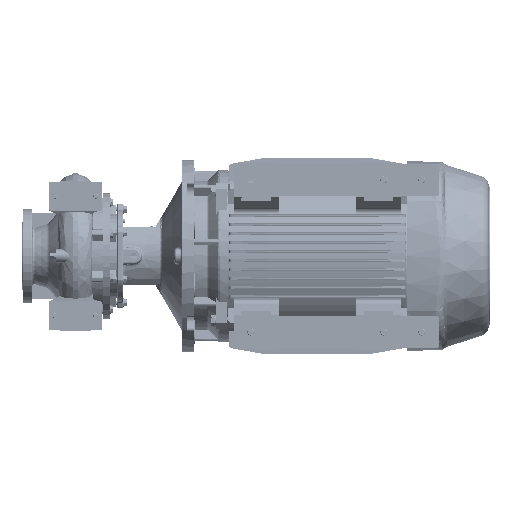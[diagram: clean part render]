
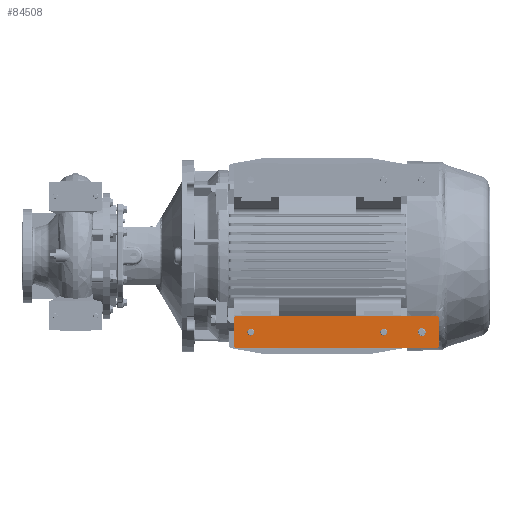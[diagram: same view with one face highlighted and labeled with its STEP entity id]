
A CAD part, front view. The second image highlights one B-rep face of the part: STEP entity #84508.
In plain terms, the highlighted planar face has unit normal (0, -1, 0).
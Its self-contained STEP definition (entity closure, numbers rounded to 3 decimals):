
#1063 = CARTESIAN_POINT ( 'NONE',  ( 69., 0., -480. ) ) ;
#2004 = VERTEX_POINT ( 'NONE', #57544 ) ;
#4925 = LINE ( 'NONE', #144819, #108889 ) ;
#5072 = EDGE_CURVE ( 'NONE', #16788, #2004, #21631, .T. ) ;
#5447 = AXIS2_PLACEMENT_3D ( 'NONE', #47737, #46957, #94392 ) ;
#5503 = ORIENTED_EDGE ( 'NONE', *, *, #133798, .T. ) ;
#6308 = DIRECTION ( 'NONE',  ( 0., 0., -1. ) ) ;
#6821 = FACE_BOUND ( 'NONE', #71823, .T. ) ;
#9548 = VERTEX_POINT ( 'NONE', #71194 ) ;
#9899 = ORIENTED_EDGE ( 'NONE', *, *, #68596, .T. ) ;
#10675 = CARTESIAN_POINT ( 'NONE',  ( 69., 0., -474. ) ) ;
#11479 = CARTESIAN_POINT ( 'NONE',  ( 6., 0., -474. ) ) ;
#12460 = VERTEX_POINT ( 'NONE', #46586 ) ;
#13723 = CARTESIAN_POINT ( 'NONE',  ( 37.5, 0., -431. ) ) ;
#14797 = EDGE_CURVE ( 'NONE', #9548, #12460, #137958, .T. ) ;
#16788 = VERTEX_POINT ( 'NONE', #13723 ) ;
#17043 = DIRECTION ( 'NONE',  ( 0., 1., 0. ) ) ;
#17610 = EDGE_CURVE ( 'NONE', #106049, #43980, #4925, .T. ) ;
#17897 = EDGE_CURVE ( 'NONE', #36921, #129110, #150339, .T. ) ;
#19405 = CARTESIAN_POINT ( 'NONE',  ( 69., 0., 0. ) ) ;
#19759 = DIRECTION ( 'NONE',  ( 0., -1., 0. ) ) ;
#20993 = AXIS2_PLACEMENT_3D ( 'NONE', #61743, #131309, #51013 ) ;
#21631 = CIRCLE ( 'NONE', #36285, 9. ) ;
#23252 = DIRECTION ( 'NONE',  ( 0., 0., 1. ) ) ;
#24013 = CARTESIAN_POINT ( 'NONE',  ( 6., 0., -480. ) ) ;
#25311 = ORIENTED_EDGE ( 'NONE', *, *, #14797, .F. ) ;
#28053 = DIRECTION ( 'NONE',  ( 0., 0., -1. ) ) ;
#28494 = DIRECTION ( 'NONE',  ( 0., 0., -1. ) ) ;
#29213 = CARTESIAN_POINT ( 'NONE',  ( 37.5, 0., -351. ) ) ;
#29222 = VECTOR ( 'NONE', #88631, 1000. ) ;
#32266 = ORIENTED_EDGE ( 'NONE', *, *, #40863, .T. ) ;
#33058 = DIRECTION ( 'NONE',  ( 1., 0., 0. ) ) ;
#34198 = AXIS2_PLACEMENT_3D ( 'NONE', #133768, #19759, #66435 ) ;
#36285 = AXIS2_PLACEMENT_3D ( 'NONE', #121082, #17043, #28494 ) ;
#36921 = VERTEX_POINT ( 'NONE', #98133 ) ;
#38409 = ORIENTED_EDGE ( 'NONE', *, *, #49564, .T. ) ;
#38831 = VECTOR ( 'NONE', #33058, 1000. ) ;
#40863 = EDGE_CURVE ( 'NONE', #2004, #16788, #102537, .T. ) ;
#42702 = VERTEX_POINT ( 'NONE', #113031 ) ;
#42923 = DIRECTION ( 'NONE',  ( 0., 0., -1. ) ) ;
#42933 = EDGE_CURVE ( 'NONE', #42702, #12460, #123251, .T. ) ;
#43152 = CIRCLE ( 'NONE', #84899, 6. ) ;
#43980 = VERTEX_POINT ( 'NONE', #140541 ) ;
#45044 = AXIS2_PLACEMENT_3D ( 'NONE', #76230, #52538, #28053 ) ;
#46586 = CARTESIAN_POINT ( 'NONE',  ( 0., 0., -6. ) ) ;
#46957 = DIRECTION ( 'NONE',  ( 0., -1., 0. ) ) ;
#47737 = CARTESIAN_POINT ( 'NONE',  ( 69., 0., -6. ) ) ;
#49564 = EDGE_CURVE ( 'NONE', #82122, #83153, #49746, .T. ) ;
#49746 = CIRCLE ( 'NONE', #57082, 8. ) ;
#51013 = DIRECTION ( 'NONE',  ( 0., 0., -1. ) ) ;
#52194 = DIRECTION ( 'NONE',  ( 0., 1., 0. ) ) ;
#52538 = DIRECTION ( 'NONE',  ( 0., -1., 0. ) ) ;
#54750 = CARTESIAN_POINT ( 'NONE',  ( 75., 0., -474. ) ) ;
#55304 = CIRCLE ( 'NONE', #126126, 8. ) ;
#55836 = AXIS2_PLACEMENT_3D ( 'NONE', #138483, #80385, #42923 ) ;
#57082 = AXIS2_PLACEMENT_3D ( 'NONE', #148522, #103407, #77464 ) ;
#57408 = DIRECTION ( 'NONE',  ( 0., 0., -1. ) ) ;
#57544 = CARTESIAN_POINT ( 'NONE',  ( 37.5, 0., -449. ) ) ;
#58852 = DIRECTION ( 'NONE',  ( 0., -1., 0. ) ) ;
#61743 = CARTESIAN_POINT ( 'NONE',  ( 37.5, 0., -40. ) ) ;
#63969 = EDGE_LOOP ( 'NONE', ( #83313, #134978, #25311, #143233, #9899, #5503, #79650, #146601 ) ) ;
#64205 = PLANE ( 'NONE',  #34198 ) ;
#66435 = DIRECTION ( 'NONE',  ( 0., 0., -1. ) ) ;
#68596 = EDGE_CURVE ( 'NONE', #139873, #107500, #124132, .T. ) ;
#69261 = EDGE_CURVE ( 'NONE', #42702, #74683, #87148, .T. ) ;
#69964 = CARTESIAN_POINT ( 'NONE',  ( 37.5, 0., -343. ) ) ;
#71194 = CARTESIAN_POINT ( 'NONE',  ( 0., 0., -474. ) ) ;
#71823 = EDGE_LOOP ( 'NONE', ( #124000, #32266 ) ) ;
#74683 = VERTEX_POINT ( 'NONE', #19405 ) ;
#74924 = FACE_BOUND ( 'NONE', #103531, .T. ) ;
#75374 = CARTESIAN_POINT ( 'NONE',  ( 37.5, 0., -32. ) ) ;
#76003 = DIRECTION ( 'NONE',  ( 0., 0., 1. ) ) ;
#76230 = CARTESIAN_POINT ( 'NONE',  ( 6., 0., -6. ) ) ;
#77464 = DIRECTION ( 'NONE',  ( 0., 0., -1. ) ) ;
#79314 = ORIENTED_EDGE ( 'NONE', *, *, #127856, .T. ) ;
#79650 = ORIENTED_EDGE ( 'NONE', *, *, #17610, .T. ) ;
#80385 = DIRECTION ( 'NONE',  ( 0., 1., 0. ) ) ;
#82122 = VERTEX_POINT ( 'NONE', #147835 ) ;
#83153 = VERTEX_POINT ( 'NONE', #69964 ) ;
#83289 = AXIS2_PLACEMENT_3D ( 'NONE', #11479, #151354, #57408 ) ;
#83313 = ORIENTED_EDGE ( 'NONE', *, *, #69261, .F. ) ;
#84316 = DIRECTION ( 'NONE',  ( 0., 1., 0. ) ) ;
#84508 = ADVANCED_FACE ( 'NONE', ( #124542, #74924, #6821, #111563 ), #64205, .T. ) ;
#84899 = AXIS2_PLACEMENT_3D ( 'NONE', #10675, #58852, #92476 ) ;
#87148 = LINE ( 'NONE', #122324, #29222 ) ;
#88341 = EDGE_CURVE ( 'NONE', #43980, #74683, #112911, .T. ) ;
#88631 = DIRECTION ( 'NONE',  ( 1., 0., 0. ) ) ;
#88714 = VECTOR ( 'NONE', #23252, 1000. ) ;
#92476 = DIRECTION ( 'NONE',  ( 0., 0., -1. ) ) ;
#93199 = AXIS2_PLACEMENT_3D ( 'NONE', #119498, #84316, #128693 ) ;
#94392 = DIRECTION ( 'NONE',  ( 0., 0., -1. ) ) ;
#98133 = CARTESIAN_POINT ( 'NONE',  ( 37.5, 0., -48. ) ) ;
#99609 = EDGE_CURVE ( 'NONE', #9548, #139873, #119981, .T. ) ;
#100338 = EDGE_CURVE ( 'NONE', #129110, #36921, #137050, .T. ) ;
#102537 = CIRCLE ( 'NONE', #55836, 9. ) ;
#103407 = DIRECTION ( 'NONE',  ( 0., 1., 0. ) ) ;
#103531 = EDGE_LOOP ( 'NONE', ( #79314, #38409 ) ) ;
#105440 = ORIENTED_EDGE ( 'NONE', *, *, #17897, .T. ) ;
#106049 = VERTEX_POINT ( 'NONE', #54750 ) ;
#107500 = VERTEX_POINT ( 'NONE', #1063 ) ;
#108889 = VECTOR ( 'NONE', #76003, 1000. ) ;
#111563 = FACE_OUTER_BOUND ( 'NONE', #63969, .T. ) ;
#112911 = CIRCLE ( 'NONE', #5447, 6. ) ;
#113031 = CARTESIAN_POINT ( 'NONE',  ( 6., 0., 0. ) ) ;
#118830 = EDGE_LOOP ( 'NONE', ( #127359, #105440 ) ) ;
#119498 = CARTESIAN_POINT ( 'NONE',  ( 37.5, 0., -40. ) ) ;
#119981 = CIRCLE ( 'NONE', #83289, 6. ) ;
#121082 = CARTESIAN_POINT ( 'NONE',  ( 37.5, 0., -440. ) ) ;
#122324 = CARTESIAN_POINT ( 'NONE',  ( 0., 0., 0. ) ) ;
#123251 = CIRCLE ( 'NONE', #45044, 6. ) ;
#124000 = ORIENTED_EDGE ( 'NONE', *, *, #5072, .T. ) ;
#124132 = LINE ( 'NONE', #126364, #38831 ) ;
#124542 = FACE_BOUND ( 'NONE', #118830, .T. ) ;
#126126 = AXIS2_PLACEMENT_3D ( 'NONE', #29213, #52194, #6308 ) ;
#126364 = CARTESIAN_POINT ( 'NONE',  ( 0., 0., -480. ) ) ;
#126487 = CARTESIAN_POINT ( 'NONE',  ( 0., 0., -480. ) ) ;
#127359 = ORIENTED_EDGE ( 'NONE', *, *, #100338, .T. ) ;
#127856 = EDGE_CURVE ( 'NONE', #83153, #82122, #55304, .T. ) ;
#128693 = DIRECTION ( 'NONE',  ( 0., 0., -1. ) ) ;
#129110 = VERTEX_POINT ( 'NONE', #75374 ) ;
#131309 = DIRECTION ( 'NONE',  ( 0., 1., 0. ) ) ;
#133768 = CARTESIAN_POINT ( 'NONE',  ( 0., 0., -480. ) ) ;
#133798 = EDGE_CURVE ( 'NONE', #107500, #106049, #43152, .T. ) ;
#134978 = ORIENTED_EDGE ( 'NONE', *, *, #42933, .T. ) ;
#137050 = CIRCLE ( 'NONE', #93199, 8. ) ;
#137958 = LINE ( 'NONE', #126487, #88714 ) ;
#138483 = CARTESIAN_POINT ( 'NONE',  ( 37.5, 0., -440. ) ) ;
#139873 = VERTEX_POINT ( 'NONE', #24013 ) ;
#140541 = CARTESIAN_POINT ( 'NONE',  ( 75., 0., -6. ) ) ;
#143233 = ORIENTED_EDGE ( 'NONE', *, *, #99609, .T. ) ;
#144819 = CARTESIAN_POINT ( 'NONE',  ( 75., 0., -480. ) ) ;
#146601 = ORIENTED_EDGE ( 'NONE', *, *, #88341, .T. ) ;
#147835 = CARTESIAN_POINT ( 'NONE',  ( 37.5, 0., -359. ) ) ;
#148522 = CARTESIAN_POINT ( 'NONE',  ( 37.5, 0., -351. ) ) ;
#150339 = CIRCLE ( 'NONE', #20993, 8. ) ;
#151354 = DIRECTION ( 'NONE',  ( 0., -1., 0. ) ) ;
